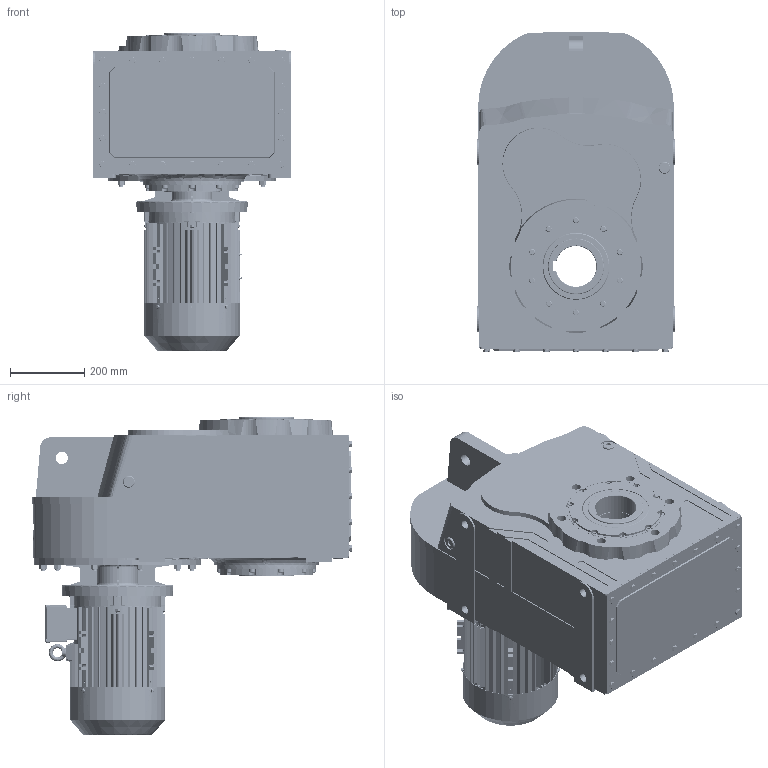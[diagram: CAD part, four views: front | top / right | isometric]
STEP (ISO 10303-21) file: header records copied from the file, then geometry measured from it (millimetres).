
FILE_DESCRIPTION (( 'STEP AP203' ), '1' );
FILE_NAME ('DV_873_0_MX3-132S.STEP', '2018-11-16T08:53:46', ( '' ), ( '' ), 'SwSTEP 2.0', 'SolidWorks 2012', '' );
FILE_SCHEMA (( 'CONFIG_CONTROL_DESIGN' ));
Products named in the file (33): DV_873_0_MX3-132S; MX3-132S_B5; plain parallel keys_GB_CONNECTING_PIECE_KEYS_CSK 10X70_1; cross recessed pan head screws gb_GB_CROSS_SCREWS_TYPE1 M5X25-25  H type-N_1; cross recessed pan head screws gb_GB_CROSS_SCREWS_TYPE1 M5X8-8  H type-N_1; hexagon socket head cap screws gb_GB_FASTENER_SCREWS_HSHCS M8X45-N; DMX-IE3 132S4 fan_1; DMX-IE3 132S4 grouding mark_1; plain washers--product grade c gb_GB_FASTENER_WASHER_SMWC 4_1; eyebolts gb_GB_FASTENER_SCREWS_FRS M10-S_1; cross recessed pan head screws gb_GB_CROSS_SCREWS_TYPE1 M4X6-6  H type-N_1; circlips for shaft--type a large gb_GB_CONNECTING_PIECE_RING_RRA 29_1; DMX-IE3 132S4  oil seal_1; DMX-IE3 132S4  cable glands_1; DMX-IE3 132S4   gasket for terminal box base_1; DMX-IE3 132S4   gasket for terminal box cover_1; hexagon socket head cap screws gb_GB_FASTENER_SCREWS_HSHCS M8X35-N_1; DMX-IE3 132S4  connection board_1; spring lock washers--normal type gb_GB_FASTENER_WASHER_SW 8_1; hexagon nuts grade c gb_GB_FASTENER_NUT_SNC1 M8-N_1; cross recessed pan head screws gb_GB_CROSS_SCREWS_TYPE1 M5X10-10  H type-N_1; hex flange bolts-heavy grade b gb_GB_FASTENER_BOLT_HFBB M5X10-N_1; DMX-IE3 132S4   fan cover_1; DMX-IE3 132S4   terminal box cover_1; DMX-IE3 132S4  terminal box_1; DMX-IE3 132S4   rotor2_1; DMX-IE3 132S4  flange B3_1; DMX-IE3 132S4  flange B5; DMX-IE3 132S4   rotor1_1; ML23A_Varsayìlan; 83B132B5_Varsayìlan; D873_Varsayìlan; DMX-IE3 132S4  casing_1
Assembly tree (64 placements, depth 3):
  DV_873_0_MX3-132S
    D873_Varsayìlan
    83B132B5_Varsayìlan
    ML23A_Varsayìlan
    MX3-132S_B5
      DMX-IE3 132S4  casing_1
      DMX-IE3 132S4  flange B5
      DMX-IE3 132S4  flange B3_1
      DMX-IE3 132S4   rotor1_1
      DMX-IE3 132S4   rotor2_1
      DMX-IE3 132S4   terminal box cover_1
      DMX-IE3 132S4  terminal box_1
      DMX-IE3 132S4   fan cover_1
      hex flange bolts-heavy grade b gb_GB_FASTENER_BOLT_HFBB M5X10-N_1  x4
      cross recessed pan head screws gb_GB_CROSS_SCREWS_TYPE1 M5X10-10  H type-N_1  x4
      hexagon nuts grade c gb_GB_FASTENER_NUT_SNC1 M8-N_1  x7
      spring lock washers--normal type gb_GB_FASTENER_WASHER_SW 8_1  x8
      hexagon socket head cap screws gb_GB_FASTENER_SCREWS_HSHCS M8X35-N_1  x5
      DMX-IE3 132S4   gasket for terminal box base_1
      DMX-IE3 132S4  connection board_1
      DMX-IE3 132S4   gasket for terminal box cover_1
      DMX-IE3 132S4  oil seal_1
      DMX-IE3 132S4  cable glands_1  x2
      circlips for shaft--type a large gb_GB_CONNECTING_PIECE_RING_RRA 29_1
      DMX-IE3 132S4 grouding mark_1
      cross recessed pan head screws gb_GB_CROSS_SCREWS_TYPE1 M4X6-6  H type-N_1  x3
      eyebolts gb_GB_FASTENER_SCREWS_FRS M10-S_1
      plain washers--product grade c gb_GB_FASTENER_WASHER_SMWC 4_1
      hexagon socket head cap screws gb_GB_FASTENER_SCREWS_HSHCS M8X45-N  x3
      DMX-IE3 132S4 fan_1
      cross recessed pan head screws gb_GB_CROSS_SCREWS_TYPE1 M5X25-25  H type-N_1  x2
      cross recessed pan head screws gb_GB_CROSS_SCREWS_TYPE1 M5X8-8  H type-N_1  x4
      plain parallel keys_GB_CONNECTING_PIECE_KEYS_CSK 10X70_1
Bounding box: 530 x 859.22 x 854.6 mm (x, y, z)
Volume: 138211734.3 mm3; surface area: 4736104.1 mm2
Topology: 91 solids, 93 shells, 6092 faces, 15907 edges, 10231 vertices
Faces by surface type: plane 3425, cylinder 1514, cone 750, bspline 399, torus 4
Entity records: 188692 total; most frequent: CARTESIAN_POINT 49218, ORIENTED_EDGE 28450, DIRECTION 27566, EDGE_CURVE 14225, AXIS2_PLACEMENT_3D 9443, VERTEX_POINT 9193, VECTOR 8680, LINE 8680
